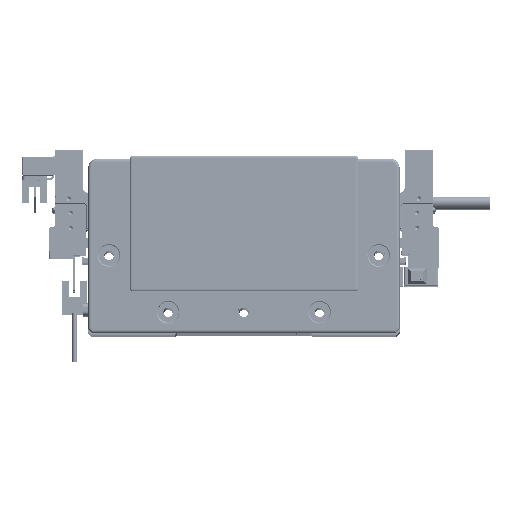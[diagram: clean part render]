
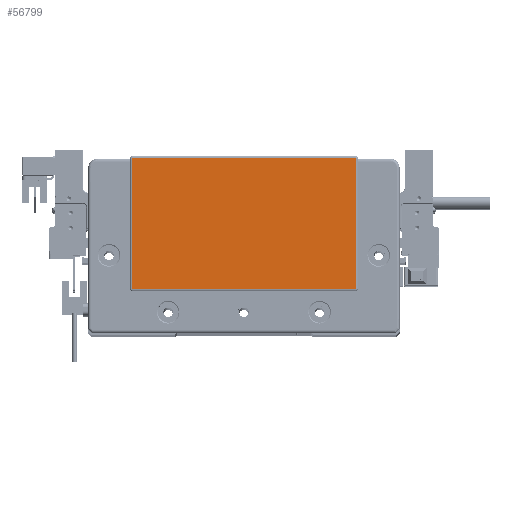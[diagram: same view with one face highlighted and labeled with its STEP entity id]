
A CAD part, top view. The second image highlights one B-rep face of the part: STEP entity #56799.
In plain terms, the highlighted planar face has unit normal (0, 0, 1) as drawn and (0, 0, -1) by its records, which use the part's own axes.
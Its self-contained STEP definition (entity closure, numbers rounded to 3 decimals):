
#2705 = DIRECTION ( 'NONE',  ( -1., 0., 0. ) ) ;
#2717 = EDGE_CURVE ( 'NONE', #16312, #62106, #45395, .T. ) ;
#3172 = ORIENTED_EDGE ( 'NONE', *, *, #76919, .T. ) ;
#3631 = CARTESIAN_POINT ( 'NONE',  ( -58.75, -23.8, -2. ) ) ;
#4213 = PLANE ( 'NONE',  #72757 ) ;
#7561 = DIRECTION ( 'NONE',  ( -1., 0., 0. ) ) ;
#8605 = VERTEX_POINT ( 'NONE', #3631 ) ;
#9754 = VERTEX_POINT ( 'NONE', #73332 ) ;
#10163 = CARTESIAN_POINT ( 'NONE',  ( 58.75, 45.3, -2. ) ) ;
#10609 = DIRECTION ( 'NONE',  ( -1., 0., 0. ) ) ;
#10804 = ORIENTED_EDGE ( 'NONE', *, *, #2717, .T. ) ;
#10875 = AXIS2_PLACEMENT_3D ( 'NONE', #31711, #39838, #32602 ) ;
#16061 = EDGE_CURVE ( 'NONE', #71057, #40377, #26030, .T. ) ;
#16312 = VERTEX_POINT ( 'NONE', #66308 ) ;
#16746 = DIRECTION ( 'NONE',  ( -1., 0., 0. ) ) ;
#20517 = DIRECTION ( 'NONE',  ( -1., 0., 0. ) ) ;
#21127 = CARTESIAN_POINT ( 'NONE',  ( -58.75, 45.3, -2. ) ) ;
#23139 = EDGE_CURVE ( 'NONE', #8605, #9754, #32627, .T. ) ;
#24176 = DIRECTION ( 'NONE',  ( 0., 1., 0. ) ) ;
#26030 = CIRCLE ( 'NONE', #80954, 0.5 ) ;
#26854 = CARTESIAN_POINT ( 'NONE',  ( 58.75, 45.8, -2. ) ) ;
#28966 = CARTESIAN_POINT ( 'NONE',  ( -58.75, -23.3, -2. ) ) ;
#30311 = DIRECTION ( 'NONE',  ( 0., 0., -1. ) ) ;
#31711 = CARTESIAN_POINT ( 'NONE',  ( 58.75, -23.3, -2. ) ) ;
#31839 = CARTESIAN_POINT ( 'NONE',  ( 0., 0., -2. ) ) ;
#32602 = DIRECTION ( 'NONE',  ( -1., 0., 0. ) ) ;
#32627 = CIRCLE ( 'NONE', #37042, 0.5 ) ;
#33674 = EDGE_LOOP ( 'NONE', ( #10804, #3172, #52962, #43803, #69110, #46411, #60934, #41223 ) ) ;
#36997 = EDGE_CURVE ( 'NONE', #40377, #77163, #88419, .T. ) ;
#37042 = AXIS2_PLACEMENT_3D ( 'NONE', #28966, #30311, #2705 ) ;
#37642 = EDGE_CURVE ( 'NONE', #55620, #8605, #84655, .T. ) ;
#39838 = DIRECTION ( 'NONE',  ( 0., 0., -1. ) ) ;
#40377 = VERTEX_POINT ( 'NONE', #62579 ) ;
#41223 = ORIENTED_EDGE ( 'NONE', *, *, #58986, .T. ) ;
#43803 = ORIENTED_EDGE ( 'NONE', *, *, #23139, .T. ) ;
#44211 = VECTOR ( 'NONE', #52611, 1000. ) ;
#45395 = LINE ( 'NONE', #87005, #44211 ) ;
#46411 = ORIENTED_EDGE ( 'NONE', *, *, #16061, .T. ) ;
#48028 = CARTESIAN_POINT ( 'NONE',  ( -59.25, 45.3, -2. ) ) ;
#48918 = CARTESIAN_POINT ( 'NONE',  ( 59.25, -23.3, -2. ) ) ;
#52611 = DIRECTION ( 'NONE',  ( 0., -1., 0. ) ) ;
#52962 = ORIENTED_EDGE ( 'NONE', *, *, #37642, .T. ) ;
#54474 = DIRECTION ( 'NONE',  ( 1., 0., 0. ) ) ;
#55620 = VERTEX_POINT ( 'NONE', #76240 ) ;
#56409 = CARTESIAN_POINT ( 'NONE',  ( -59.25, 45.3, -2. ) ) ;
#56799 = ADVANCED_FACE ( 'NONE', ( #66204 ), #4213, .T. ) ;
#58986 = EDGE_CURVE ( 'NONE', #77163, #16312, #80299, .T. ) ;
#60934 = ORIENTED_EDGE ( 'NONE', *, *, #36997, .T. ) ;
#62106 = VERTEX_POINT ( 'NONE', #48918 ) ;
#62579 = CARTESIAN_POINT ( 'NONE',  ( -58.75, 45.8, -2. ) ) ;
#63227 = DIRECTION ( 'NONE',  ( 0., 0., -1. ) ) ;
#63306 = EDGE_CURVE ( 'NONE', #9754, #71057, #79397, .T. ) ;
#63667 = DIRECTION ( 'NONE',  ( 0., 0., -1. ) ) ;
#65331 = VECTOR ( 'NONE', #54474, 1000. ) ;
#65889 = AXIS2_PLACEMENT_3D ( 'NONE', #10163, #79400, #10609 ) ;
#66204 = FACE_OUTER_BOUND ( 'NONE', #33674, .T. ) ;
#66308 = CARTESIAN_POINT ( 'NONE',  ( 59.25, 45.3, -2. ) ) ;
#69110 = ORIENTED_EDGE ( 'NONE', *, *, #63306, .T. ) ;
#69228 = CARTESIAN_POINT ( 'NONE',  ( 58.75, 45.8, -2. ) ) ;
#71057 = VERTEX_POINT ( 'NONE', #56409 ) ;
#71155 = VECTOR ( 'NONE', #16746, 1000. ) ;
#72757 = AXIS2_PLACEMENT_3D ( 'NONE', #31839, #63667, #20517 ) ;
#73332 = CARTESIAN_POINT ( 'NONE',  ( -59.25, -23.3, -2. ) ) ;
#76240 = CARTESIAN_POINT ( 'NONE',  ( 58.75, -23.8, -2. ) ) ;
#76919 = EDGE_CURVE ( 'NONE', #62106, #55620, #78804, .T. ) ;
#77163 = VERTEX_POINT ( 'NONE', #69228 ) ;
#78804 = CIRCLE ( 'NONE', #10875, 0.5 ) ;
#79397 = LINE ( 'NONE', #48028, #83589 ) ;
#79400 = DIRECTION ( 'NONE',  ( 0., 0., -1. ) ) ;
#80299 = CIRCLE ( 'NONE', #65889, 0.5 ) ;
#80954 = AXIS2_PLACEMENT_3D ( 'NONE', #21127, #63227, #7561 ) ;
#83589 = VECTOR ( 'NONE', #24176, 1000. ) ;
#84655 = LINE ( 'NONE', #86432, #71155 ) ;
#86432 = CARTESIAN_POINT ( 'NONE',  ( -58.75, -23.8, -2. ) ) ;
#87005 = CARTESIAN_POINT ( 'NONE',  ( 59.25, -23.3, -2. ) ) ;
#88419 = LINE ( 'NONE', #26854, #65331 ) ;
